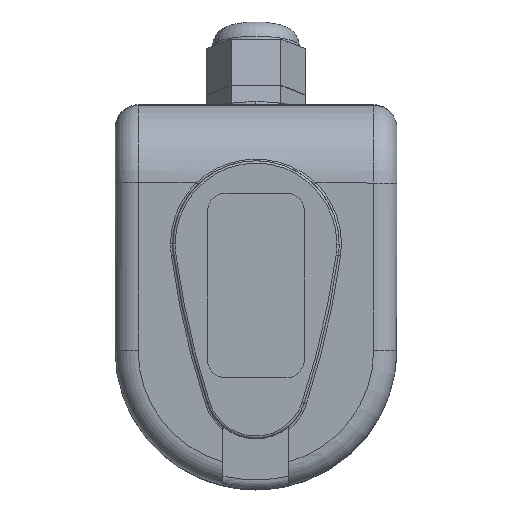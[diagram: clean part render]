
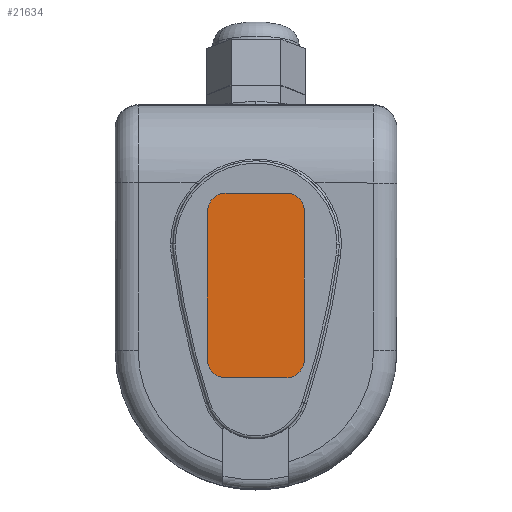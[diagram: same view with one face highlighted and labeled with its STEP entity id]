
A CAD part, front view. The second image highlights one B-rep face of the part: STEP entity #21634.
In plain terms, the highlighted planar face has unit normal (0, -1, 0) as drawn and (1, 0, 0) by its records, which use the part's own axes.
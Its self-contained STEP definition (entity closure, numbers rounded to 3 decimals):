
#174 = CIRCLE ( 'NONE', #22152, 4. ) ;
#678 = EDGE_CURVE ( 'NONE', #5601, #23392, #14288, .T. ) ;
#3108 = CARTESIAN_POINT ( 'NONE',  ( 15.7, 23., -37. ) ) ;
#3598 = ORIENTED_EDGE ( 'NONE', *, *, #9711, .T. ) ;
#3757 = EDGE_CURVE ( 'NONE', #7176, #22193, #9171, .T. ) ;
#3795 = DIRECTION ( 'NONE',  ( 0., 0., -1. ) ) ;
#3848 = CARTESIAN_POINT ( 'NONE',  ( 15.7, 55., -20. ) ) ;
#4446 = VECTOR ( 'NONE', #3795, 1000. ) ;
#4806 = VERTEX_POINT ( 'NONE', #19015 ) ;
#4845 = ORIENTED_EDGE ( 'NONE', *, *, #8017, .T. ) ;
#5256 = DIRECTION ( 'NONE',  ( 1., 0., 0. ) ) ;
#5334 = DIRECTION ( 'NONE',  ( 0., 0., 1. ) ) ;
#5360 = LINE ( 'NONE', #18070, #9820 ) ;
#5601 = VERTEX_POINT ( 'NONE', #25836 ) ;
#5609 = CARTESIAN_POINT ( 'NONE',  ( 15.7, 59., -24. ) ) ;
#5638 = VERTEX_POINT ( 'NONE', #6630 ) ;
#5809 = AXIS2_PLACEMENT_3D ( 'NONE', #18241, #5256, #20395 ) ;
#6245 = CARTESIAN_POINT ( 'NONE',  ( 15.7, 55., -24. ) ) ;
#6630 = CARTESIAN_POINT ( 'NONE',  ( 15.7, 19., -37. ) ) ;
#6809 = ORIENTED_EDGE ( 'NONE', *, *, #22447, .T. ) ;
#6814 = DIRECTION ( 'NONE',  ( 0., 1., 0. ) ) ;
#6846 = ORIENTED_EDGE ( 'NONE', *, *, #14875, .T. ) ;
#7176 = VERTEX_POINT ( 'NONE', #18495 ) ;
#7256 = LINE ( 'NONE', #23955, #11652 ) ;
#8017 = EDGE_CURVE ( 'NONE', #5638, #19248, #8682, .T. ) ;
#8356 = CARTESIAN_POINT ( 'NONE',  ( 15.7, 19., -24. ) ) ;
#8456 = DIRECTION ( 'NONE',  ( 0., 0., 1. ) ) ;
#8478 = FACE_OUTER_BOUND ( 'NONE', #9621, .T. ) ;
#8609 = CIRCLE ( 'NONE', #5809, 4. ) ;
#8682 = CIRCLE ( 'NONE', #22736, 4. ) ;
#9171 = LINE ( 'NONE', #5609, #25632 ) ;
#9621 = EDGE_LOOP ( 'NONE', ( #10730, #6809, #16106, #14046, #4845, #3598, #6846, #16507 ) ) ;
#9711 = EDGE_CURVE ( 'NONE', #19248, #4806, #7256, .T. ) ;
#9820 = VECTOR ( 'NONE', #13810, 1000. ) ;
#10354 = DIRECTION ( 'NONE',  ( -1., 0., 0. ) ) ;
#10730 = ORIENTED_EDGE ( 'NONE', *, *, #19350, .T. ) ;
#11181 = CARTESIAN_POINT ( 'NONE',  ( 15.7, 59., -24. ) ) ;
#11652 = VECTOR ( 'NONE', #6814, 1000. ) ;
#12287 = DIRECTION ( 'NONE',  ( 1., 0., 0. ) ) ;
#13295 = VERTEX_POINT ( 'NONE', #3848 ) ;
#13810 = DIRECTION ( 'NONE',  ( 0., -1., 0. ) ) ;
#14046 = ORIENTED_EDGE ( 'NONE', *, *, #24932, .T. ) ;
#14288 = CIRCLE ( 'NONE', #23497, 4. ) ;
#14875 = EDGE_CURVE ( 'NONE', #4806, #7176, #8609, .T. ) ;
#15324 = LINE ( 'NONE', #16822, #4446 ) ;
#16106 = ORIENTED_EDGE ( 'NONE', *, *, #678, .T. ) ;
#16507 = ORIENTED_EDGE ( 'NONE', *, *, #3757, .T. ) ;
#16822 = CARTESIAN_POINT ( 'NONE',  ( 15.7, 19., -24. ) ) ;
#18070 = CARTESIAN_POINT ( 'NONE',  ( 15.7, 55., -20. ) ) ;
#18241 = CARTESIAN_POINT ( 'NONE',  ( 15.7, 55., -37. ) ) ;
#18322 = DIRECTION ( 'NONE',  ( 1., 0., 0. ) ) ;
#18495 = CARTESIAN_POINT ( 'NONE',  ( 15.7, 59., -37. ) ) ;
#19015 = CARTESIAN_POINT ( 'NONE',  ( 15.7, 55., -41. ) ) ;
#19248 = VERTEX_POINT ( 'NONE', #20987 ) ;
#19350 = EDGE_CURVE ( 'NONE', #22193, #13295, #174, .T. ) ;
#19872 = AXIS2_PLACEMENT_3D ( 'NONE', #27452, #10354, #25399 ) ;
#20395 = DIRECTION ( 'NONE',  ( 0., 0., 1. ) ) ;
#20987 = CARTESIAN_POINT ( 'NONE',  ( 15.7, 23., -41. ) ) ;
#21350 = DIRECTION ( 'NONE',  ( 1., 0., 0. ) ) ;
#21634 = ADVANCED_FACE ( 'NONE', ( #8478 ), #23242, .F. ) ;
#22152 = AXIS2_PLACEMENT_3D ( 'NONE', #6245, #21350, #8456 ) ;
#22193 = VERTEX_POINT ( 'NONE', #11181 ) ;
#22447 = EDGE_CURVE ( 'NONE', #13295, #5601, #5360, .T. ) ;
#22736 = AXIS2_PLACEMENT_3D ( 'NONE', #3108, #18322, #5334 ) ;
#22895 = DIRECTION ( 'NONE',  ( 0., 0., 1. ) ) ;
#23242 = PLANE ( 'NONE',  #19872 ) ;
#23392 = VERTEX_POINT ( 'NONE', #8356 ) ;
#23497 = AXIS2_PLACEMENT_3D ( 'NONE', #25076, #12287, #23728 ) ;
#23728 = DIRECTION ( 'NONE',  ( 0., 0., -1. ) ) ;
#23955 = CARTESIAN_POINT ( 'NONE',  ( 15.7, 55., -41. ) ) ;
#24932 = EDGE_CURVE ( 'NONE', #23392, #5638, #15324, .T. ) ;
#25076 = CARTESIAN_POINT ( 'NONE',  ( 15.7, 23., -24. ) ) ;
#25399 = DIRECTION ( 'NONE',  ( 0., 0., 1. ) ) ;
#25632 = VECTOR ( 'NONE', #22895, 1000. ) ;
#25836 = CARTESIAN_POINT ( 'NONE',  ( 15.7, 23., -20. ) ) ;
#27452 = CARTESIAN_POINT ( 'NONE',  ( 15.7, 55., -24. ) ) ;
